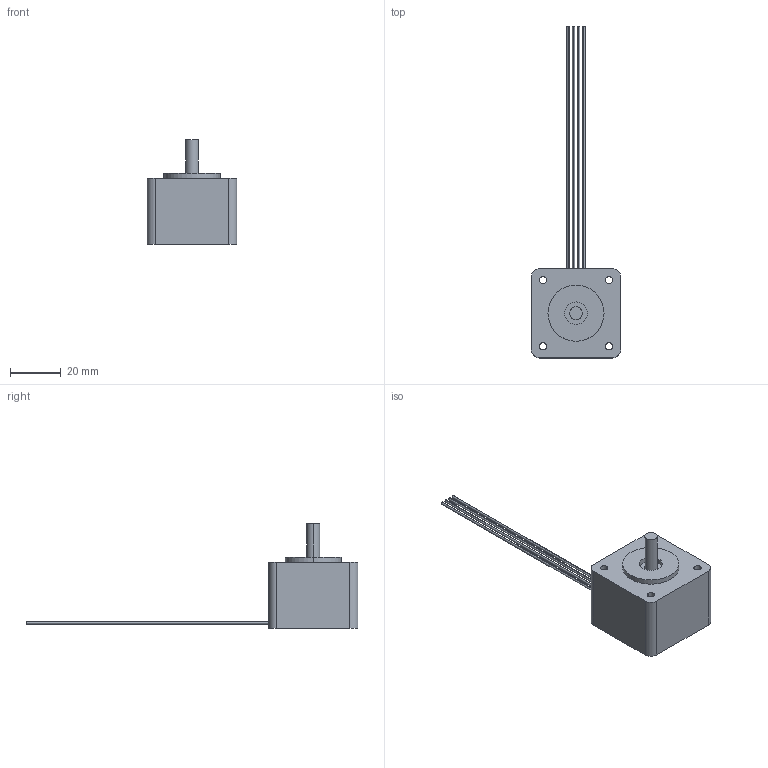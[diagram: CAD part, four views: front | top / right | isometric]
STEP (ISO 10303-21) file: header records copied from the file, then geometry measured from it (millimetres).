
FILE_DESCRIPTION((''),'2;1');
FILE_NAME('C:\Documents and Settings\rbadgerow\Desktop\webmodelmain\web step 3d\3518x\3518x s.stp','2005-05-10T06:27:11',('rbadgerow'),(''),'Autodesk Inventor 9','Autodesk Inventor 9','');
FILE_SCHEMA(('AUTOMOTIVE_DESIGN { 1 0 10303 214 1 1 1 1 }'));
Length unit declared in the file: inch
Products named in the file (1): 3518x s
Bounding box: 35.05 x 130.21 x 41.15 mm (x, y, z)
Volume: 32148.6 mm3; surface area: 8401.9 mm2
Topology: 1 solids, 1 shells, 42 faces, 96 edges, 64 vertices
Faces by surface type: cylinder 28, plane 14
Entity records: 1257 total; most frequent: DIRECTION 238, CARTESIAN_POINT 203, ORIENTED_EDGE 192, AXIS2_PLACEMENT_3D 99, EDGE_CURVE 96, VERTEX_POINT 64, EDGE_LOOP 58, CIRCLE 56
